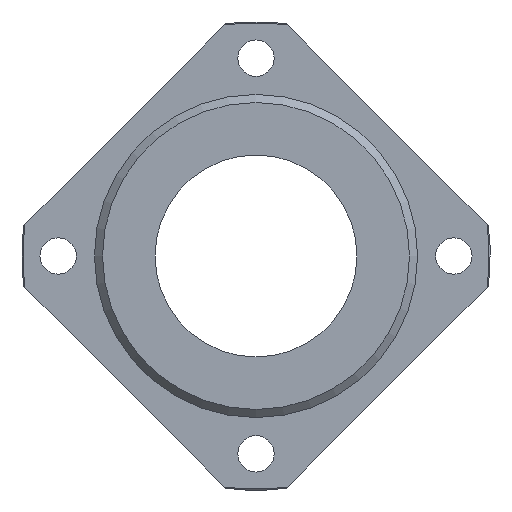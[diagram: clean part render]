
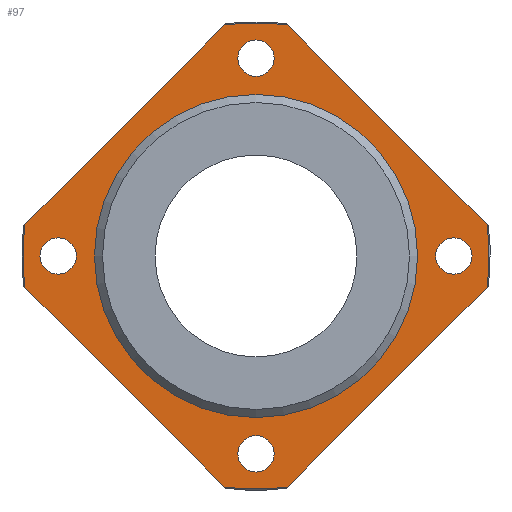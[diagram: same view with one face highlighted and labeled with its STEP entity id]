
A CAD part, left-side view. The second image highlights one B-rep face of the part: STEP entity #97.
In plain terms, the highlighted planar face has unit normal (-1, 0, 0).
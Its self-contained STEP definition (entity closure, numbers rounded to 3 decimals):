
#97=ADVANCED_FACE('',(#168,#169,#170,#171,#172,#173),#174,.F.);
#168=FACE_OUTER_BOUND('',#271,.T.);
#169=FACE_BOUND('',#272,.T.);
#170=FACE_BOUND('',#273,.T.);
#171=FACE_BOUND('',#274,.T.);
#172=FACE_BOUND('',#275,.T.);
#173=FACE_BOUND('',#276,.T.);
#174=PLANE('',#277);
#271=EDGE_LOOP('',(#482,#483,#484,#485,#486,#487,#488,#489));
#272=EDGE_LOOP('',(#490));
#273=EDGE_LOOP('',(#491));
#274=EDGE_LOOP('',(#492));
#275=EDGE_LOOP('',(#493));
#276=EDGE_LOOP('',(#494));
#277=AXIS2_PLACEMENT_3D('',#495,#496,#497);
#482=ORIENTED_EDGE('',*,*,#625,.T.);
#483=ORIENTED_EDGE('',*,*,#633,.T.);
#484=ORIENTED_EDGE('',*,*,#621,.T.);
#485=ORIENTED_EDGE('',*,*,#589,.T.);
#486=ORIENTED_EDGE('',*,*,#623,.T.);
#487=ORIENTED_EDGE('',*,*,#596,.T.);
#488=ORIENTED_EDGE('',*,*,#582,.T.);
#489=ORIENTED_EDGE('',*,*,#578,.T.);
#490=ORIENTED_EDGE('',*,*,#634,.T.);
#491=ORIENTED_EDGE('',*,*,#635,.T.);
#492=ORIENTED_EDGE('',*,*,#636,.T.);
#493=ORIENTED_EDGE('',*,*,#637,.T.);
#494=ORIENTED_EDGE('',*,*,#632,.T.);
#495=CARTESIAN_POINT('',(-18.0,57.746,0.0));
#496=DIRECTION('',(1.0,0.0,0.0));
#497=DIRECTION('',(0.0,0.0,-1.0));
#578=EDGE_CURVE('',#655,#653,#656,.T.);
#582=EDGE_CURVE('',#662,#655,#663,.T.);
#589=EDGE_CURVE('',#676,#674,#677,.T.);
#596=EDGE_CURVE('',#689,#662,#690,.T.);
#621=EDGE_CURVE('',#728,#676,#729,.T.);
#623=EDGE_CURVE('',#674,#689,#731,.T.);
#625=EDGE_CURVE('',#653,#732,#734,.T.);
#632=EDGE_CURVE('',#747,#747,#748,.T.);
#633=EDGE_CURVE('',#732,#728,#749,.T.);
#634=EDGE_CURVE('',#750,#750,#751,.T.);
#635=EDGE_CURVE('',#752,#752,#753,.T.);
#636=EDGE_CURVE('',#754,#754,#755,.T.);
#637=EDGE_CURVE('',#756,#756,#757,.T.);
#653=VERTEX_POINT('',#786);
#655=VERTEX_POINT('',#791);
#656=LINE('',#792,#793);
#662=VERTEX_POINT('',#806);
#663=CIRCLE('',#807,57.746);
#674=VERTEX_POINT('',#826);
#676=VERTEX_POINT('',#831);
#677=LINE('',#832,#833);
#689=VERTEX_POINT('',#857);
#690=LINE('',#858,#859);
#728=VERTEX_POINT('',#913);
#729=CIRCLE('',#914,57.746);
#731=CIRCLE('',#919,57.746);
#732=VERTEX_POINT('',#920);
#734=CIRCLE('',#925,57.746);
#747=VERTEX_POINT('',#938);
#748=CIRCLE('',#939,40.0);
#749=LINE('',#940,#941);
#750=VERTEX_POINT('',#942);
#751=CIRCLE('',#943,4.5);
#752=VERTEX_POINT('',#944);
#753=CIRCLE('',#945,4.5);
#754=VERTEX_POINT('',#946);
#755=CIRCLE('',#947,4.5);
#756=VERTEX_POINT('',#948);
#757=CIRCLE('',#949,4.5);
#786=CARTESIAN_POINT('',(-18.0,-7.843,57.211));
#791=CARTESIAN_POINT('',(-18.0,-57.211,7.843));
#792=CARTESIAN_POINT('',(-18.0,-3.654,61.4));
#793=VECTOR('',#968,1.0);
#806=CARTESIAN_POINT('',(-18.0,-57.211,-7.843));
#807=AXIS2_PLACEMENT_3D('',#970,#971,#972);
#826=CARTESIAN_POINT('',(-18.0,7.843,-57.211));
#831=CARTESIAN_POINT('',(-18.0,57.211,-7.843));
#832=CARTESIAN_POINT('',(-18.0,61.4,-3.654));
#833=VECTOR('',#978,1.0);
#857=CARTESIAN_POINT('',(-18.0,-7.843,-57.211));
#858=CARTESIAN_POINT('',(-18.0,-3.654,-61.4));
#859=VECTOR('',#982,1.0);
#913=CARTESIAN_POINT('',(-18.0,57.211,7.843));
#914=AXIS2_PLACEMENT_3D('',#1035,#1036,#1037);
#919=AXIS2_PLACEMENT_3D('',#1038,#1039,#1040);
#920=CARTESIAN_POINT('',(-18.0,7.843,57.211));
#925=AXIS2_PLACEMENT_3D('',#1041,#1042,#1043);
#938=CARTESIAN_POINT('',(-18.0,0.,-40.0));
#939=AXIS2_PLACEMENT_3D('',#1062,#1063,#1064);
#940=CARTESIAN_POINT('',(-18.0,61.4,3.654));
#941=VECTOR('',#1065,1.0);
#942=CARTESIAN_POINT('',(-18.0,49.0,-4.5));
#943=AXIS2_PLACEMENT_3D('',#1066,#1067,#1068);
#944=CARTESIAN_POINT('',(-18.0,0.,44.5));
#945=AXIS2_PLACEMENT_3D('',#1069,#1070,#1071);
#946=CARTESIAN_POINT('',(-18.0,-49.0,-4.5));
#947=AXIS2_PLACEMENT_3D('',#1072,#1073,#1074);
#948=CARTESIAN_POINT('',(-18.0,0.,-53.5));
#949=AXIS2_PLACEMENT_3D('',#1075,#1076,#1077);
#968=DIRECTION('',(0.0,0.707,0.707));
#970=CARTESIAN_POINT('',(-18.0,0.,0.0));
#971=DIRECTION('',(-1.0,0.0,0.0));
#972=DIRECTION('',(0.0,0.0,1.0));
#978=DIRECTION('',(0.0,-0.707,-0.707));
#982=DIRECTION('',(0.0,-0.707,0.707));
#1035=CARTESIAN_POINT('',(-18.0,0.,0.0));
#1036=DIRECTION('',(-1.0,0.0,0.0));
#1037=DIRECTION('',(0.0,0.0,1.0));
#1038=CARTESIAN_POINT('',(-18.0,0.,0.0));
#1039=DIRECTION('',(-1.0,0.0,0.0));
#1040=DIRECTION('',(0.0,0.0,1.0));
#1041=CARTESIAN_POINT('',(-18.0,0.,0.0));
#1042=DIRECTION('',(-1.0,0.0,0.0));
#1043=DIRECTION('',(0.0,0.0,1.0));
#1062=CARTESIAN_POINT('',(-18.0,0.,0.0));
#1063=DIRECTION('',(1.0,0.0,0.0));
#1064=DIRECTION('',(0.0,0.0,-1.0));
#1065=DIRECTION('',(0.0,0.707,-0.707));
#1066=CARTESIAN_POINT('',(-18.0,49.0,0.0));
#1067=DIRECTION('',(1.0,0.0,0.0));
#1068=DIRECTION('',(0.0,0.0,-1.0));
#1069=CARTESIAN_POINT('',(-18.0,0.,49.0));
#1070=DIRECTION('',(1.0,0.0,0.0));
#1071=DIRECTION('',(0.0,0.0,-1.0));
#1072=CARTESIAN_POINT('',(-18.0,-49.0,0.));
#1073=DIRECTION('',(1.0,0.0,0.0));
#1074=DIRECTION('',(0.0,0.0,-1.0));
#1075=CARTESIAN_POINT('',(-18.0,0.,-49.0));
#1076=DIRECTION('',(1.0,0.0,0.0));
#1077=DIRECTION('',(0.0,0.0,-1.0));
